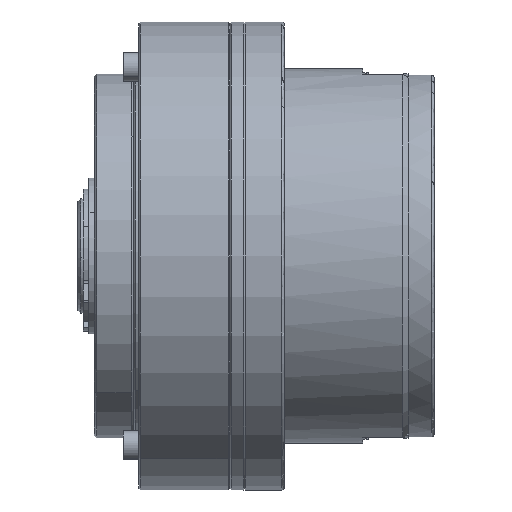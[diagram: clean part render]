
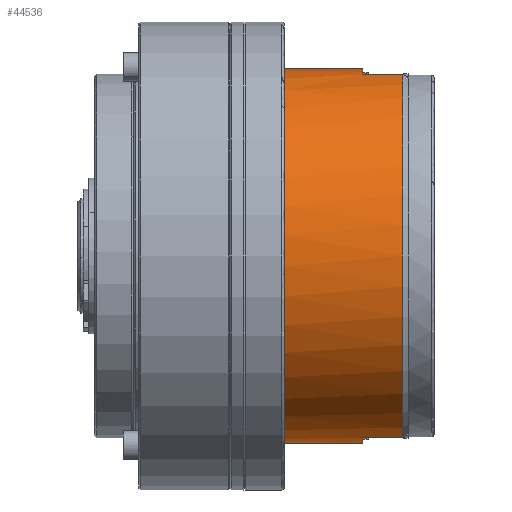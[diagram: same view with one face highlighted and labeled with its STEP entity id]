
A CAD part, left-side view. The second image highlights one B-rep face of the part: STEP entity #44536.
In plain terms, the highlighted cylindrical face has radius 36 mm (diameter 72 mm), a partial arc.
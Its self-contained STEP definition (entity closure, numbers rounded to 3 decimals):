
#59 = CARTESIAN_POINT ( 'NONE',  ( -8.743, 8.7, -34.922 ) ) ;
#1963 = VERTEX_POINT ( 'NONE', #94333 ) ;
#4630 = LINE ( 'NONE', #100639, #113653 ) ;
#5792 = CARTESIAN_POINT ( 'NONE',  ( 0., 8.7, 36. ) ) ;
#6038 = VERTEX_POINT ( 'NONE', #91585 ) ;
#6105 = DIRECTION ( 'NONE',  ( 0., -1., 0. ) ) ;
#6279 = CARTESIAN_POINT ( 'NONE',  ( -32.358, 23.8, 15.953 ) ) ;
#6727 = CARTESIAN_POINT ( 'NONE',  ( -34.849, 23.8, 9.334 ) ) ;
#7176 = CARTESIAN_POINT ( 'NONE',  ( -4.712, 23.8, 35.768 ) ) ;
#7661 = CARTESIAN_POINT ( 'NONE',  ( -18.041, 23.8, 31.242 ) ) ;
#8101 = CARTESIAN_POINT ( 'NONE',  ( -18.041, 23.8, -31.242 ) ) ;
#8685 = ORIENTED_EDGE ( 'NONE', *, *, #13627, .T. ) ;
#9508 = ORIENTED_EDGE ( 'NONE', *, *, #26420, .T. ) ;
#10544 = LINE ( 'NONE', #61223, #46900 ) ;
#10841 = ORIENTED_EDGE ( 'NONE', *, *, #115080, .T. ) ;
#11950 = VERTEX_POINT ( 'NONE', #114706 ) ;
#13584 = VECTOR ( 'NONE', #78011, 1000. ) ;
#13627 = EDGE_CURVE ( 'NONE', #6038, #124430, #34643, .T. ) ;
#17360 = CARTESIAN_POINT ( 'NONE',  ( 0., 8.7, 36. ) ) ;
#17782 = CARTESIAN_POINT ( 'NONE',  ( -23.79, 23.8, 27.122 ) ) ;
#18211 = CARTESIAN_POINT ( 'NONE',  ( -34.161, 23.8, -11.6 ) ) ;
#20313 = AXIS2_PLACEMENT_3D ( 'NONE', #125208, #135745, #75900 ) ;
#22894 = ORIENTED_EDGE ( 'NONE', *, *, #103892, .T. ) ;
#23092 = CARTESIAN_POINT ( 'NONE',  ( -5.29, 8.7, -35.675 ) ) ;
#26321 = LINE ( 'NONE', #132065, #51233 ) ;
#26420 = EDGE_CURVE ( 'NONE', #11950, #56500, #94439, .T. ) ;
#26580 = CARTESIAN_POINT ( 'NONE',  ( -1.766, 8.7, 36. ) ) ;
#27467 = CARTESIAN_POINT ( 'NONE',  ( -15.953, 23.8, -32.358 ) ) ;
#28834 = CARTESIAN_POINT ( 'NONE',  ( -31.242, 23.8, -18.041 ) ) ;
#31747 = EDGE_CURVE ( 'NONE', #118218, #111538, #134355, .T. ) ;
#32554 = ORIENTED_EDGE ( 'NONE', *, *, #31747, .F. ) ;
#34643 = CIRCLE ( 'NONE', #20313, 36. ) ;
#39028 = CARTESIAN_POINT ( 'NONE',  ( -32.358, 23.8, -15.953 ) ) ;
#39480 = CARTESIAN_POINT ( 'NONE',  ( -34.849, 23.8, -9.334 ) ) ;
#40073 = FACE_OUTER_BOUND ( 'NONE', #70928, .T. ) ;
#41680 = CYLINDRICAL_SURFACE ( 'NONE', #46803, 36. ) ;
#41954 = ORIENTED_EDGE ( 'NONE', *, *, #43039, .F. ) ;
#43039 = EDGE_CURVE ( 'NONE', #1963, #57889, #43536, .T. ) ;
#43536 = B_SPLINE_CURVE_WITH_KNOTS ( 'NONE', 5,
 ( #59, #96570, #23092, #115959, #97010, #74014 ),
 .UNSPECIFIED., .F., .F.,
 ( 6, 6 ),
 ( 0., 12.489 ),
 .UNSPECIFIED. ) ;
#44536 = ADVANCED_FACE ( 'NONE', ( #40073 ), #41680, .T. ) ;
#46803 = AXIS2_PLACEMENT_3D ( 'NONE', #130863, #109692, #120264 ) ;
#46900 = VECTOR ( 'NONE', #52438, 1000. ) ;
#48802 = CARTESIAN_POINT ( 'NONE',  ( -27.122, 23.8, 23.79 ) ) ;
#49281 = CARTESIAN_POINT ( 'NONE',  ( -3.532, 8.7, 35.892 ) ) ;
#49703 = CARTESIAN_POINT ( 'NONE',  ( -2.356, 23.8, -36. ) ) ;
#51233 = VECTOR ( 'NONE', #6105, 1000. ) ;
#52438 = DIRECTION ( 'NONE',  ( 0., -1., 0. ) ) ;
#53641 = CARTESIAN_POINT ( 'NONE',  ( 0., 8.7, -36. ) ) ;
#56500 = VERTEX_POINT ( 'NONE', #66052 ) ;
#56952 = CARTESIAN_POINT ( 'NONE',  ( -8.743, 8.7, 34.922 ) ) ;
#57889 = VERTEX_POINT ( 'NONE', #53641 ) ;
#58635 = DIRECTION ( 'NONE',  ( 0., -1., 0. ) ) ;
#59401 = CARTESIAN_POINT ( 'NONE',  ( -23.79, 23.8, -27.122 ) ) ;
#59868 = CARTESIAN_POINT ( 'NONE',  ( -35.768, 23.8, 4.712 ) ) ;
#60325 = CARTESIAN_POINT ( 'NONE',  ( -9.334, 23.8, -34.849 ) ) ;
#61223 = CARTESIAN_POINT ( 'NONE',  ( -8.743, 19., -34.922 ) ) ;
#62987 = ORIENTED_EDGE ( 'NONE', *, *, #110769, .F. ) ;
#66052 = CARTESIAN_POINT ( 'NONE',  ( 0., 23.8, -36. ) ) ;
#66945 = CARTESIAN_POINT ( 'NONE',  ( -8.743, 19., 34.922 ) ) ;
#70044 = CARTESIAN_POINT ( 'NONE',  ( -11.6, 23.8, -34.161 ) ) ;
#70512 = CARTESIAN_POINT ( 'NONE',  ( -11.6, 23.8, 34.161 ) ) ;
#70928 = EDGE_LOOP ( 'NONE', ( #62987, #9508, #10841, #41954, #77128, #8685, #22894, #32554 ) ) ;
#70948 = CARTESIAN_POINT ( 'NONE',  ( 0., 23.8, -36. ) ) ;
#74014 = CARTESIAN_POINT ( 'NONE',  ( 0., 8.7, -36. ) ) ;
#74479 = EDGE_CURVE ( 'NONE', #1963, #6038, #10544, .T. ) ;
#74821 = LINE ( 'NONE', #66945, #13584 ) ;
#75900 = DIRECTION ( 'NONE',  ( 1., 0., 0. ) ) ;
#77128 = ORIENTED_EDGE ( 'NONE', *, *, #74479, .T. ) ;
#78011 = DIRECTION ( 'NONE',  ( 0., 1., 0. ) ) ;
#80673 = CARTESIAN_POINT ( 'NONE',  ( -2.356, 23.8, 36. ) ) ;
#81123 = CARTESIAN_POINT ( 'NONE',  ( -15.953, 23.8, 32.358 ) ) ;
#81560 = CARTESIAN_POINT ( 'NONE',  ( -35.768, 23.8, -4.712 ) ) ;
#91265 = CARTESIAN_POINT ( 'NONE',  ( -5.29, 8.7, 35.675 ) ) ;
#91585 = CARTESIAN_POINT ( 'NONE',  ( -8.743, 1., -34.922 ) ) ;
#91687 = CARTESIAN_POINT ( 'NONE',  ( -31.242, 23.8, 18.041 ) ) ;
#94333 = CARTESIAN_POINT ( 'NONE',  ( -8.743, 8.7, -34.922 ) ) ;
#94439 = B_SPLINE_CURVE_WITH_KNOTS ( 'NONE', 3,
 ( #112017, #80673, #7176, #102742, #70512, #81123, #7661, #112458, #17782, #48802, #134487, #91687, #6279, #122101, #6727, #59868, #122553, #102312, #81560, #39480, #18211, #39028, #28834, #100933, #111550, #59401, #112892, #8101, #27467, #70044, #60325, #113385, #49703, #70948 ),
 .UNSPECIFIED., .F., .F.,
 ( 4, 2, 2, 2, 2, 2, 2, 2, 2, 2, 2, 2, 2, 2, 2, 2, 4 ),
 ( 0., 0.063, 0.125, 0.188, 0.25, 0.313, 0.375, 0.438, 0.5, 0.563, 0.625, 0.688, 0.75, 0.813, 0.875, 0.938, 1. ),
 .UNSPECIFIED. ) ;
#96570 = CARTESIAN_POINT ( 'NONE',  ( -7.03, 8.7, -35.351 ) ) ;
#97010 = CARTESIAN_POINT ( 'NONE',  ( -1.766, 8.7, -36. ) ) ;
#100639 = CARTESIAN_POINT ( 'NONE',  ( 0., 19., 36. ) ) ;
#100933 = CARTESIAN_POINT ( 'NONE',  ( -28.624, 23.8, -21.96 ) ) ;
#102312 = CARTESIAN_POINT ( 'NONE',  ( -36., 23.8, -2.356 ) ) ;
#102742 = CARTESIAN_POINT ( 'NONE',  ( -9.334, 23.8, 34.849 ) ) ;
#103892 = EDGE_CURVE ( 'NONE', #124430, #111538, #74821, .T. ) ;
#109692 = DIRECTION ( 'NONE',  ( 0., -1., 0. ) ) ;
#110769 = EDGE_CURVE ( 'NONE', #11950, #118218, #4630, .T. ) ;
#111538 = VERTEX_POINT ( 'NONE', #56952 ) ;
#111550 = CARTESIAN_POINT ( 'NONE',  ( -27.122, 23.8, -23.79 ) ) ;
#112017 = CARTESIAN_POINT ( 'NONE',  ( 0., 23.8, 36. ) ) ;
#112458 = CARTESIAN_POINT ( 'NONE',  ( -21.96, 23.8, 28.624 ) ) ;
#112892 = CARTESIAN_POINT ( 'NONE',  ( -21.96, 23.8, -28.624 ) ) ;
#113385 = CARTESIAN_POINT ( 'NONE',  ( -4.712, 23.8, -35.768 ) ) ;
#113653 = VECTOR ( 'NONE', #58635, 1000. ) ;
#114706 = CARTESIAN_POINT ( 'NONE',  ( 0., 23.8, 36. ) ) ;
#115080 = EDGE_CURVE ( 'NONE', #56500, #57889, #26321, .T. ) ;
#115959 = CARTESIAN_POINT ( 'NONE',  ( -3.532, 8.7, -35.892 ) ) ;
#118218 = VERTEX_POINT ( 'NONE', #5792 ) ;
#120264 = DIRECTION ( 'NONE',  ( 0., 0., -1. ) ) ;
#120474 = CARTESIAN_POINT ( 'NONE',  ( -8.743, 1., 34.922 ) ) ;
#122101 = CARTESIAN_POINT ( 'NONE',  ( -34.161, 23.8, 11.6 ) ) ;
#122553 = CARTESIAN_POINT ( 'NONE',  ( -36., 23.8, 2.356 ) ) ;
#124430 = VERTEX_POINT ( 'NONE', #120474 ) ;
#125208 = CARTESIAN_POINT ( 'NONE',  ( 0., 1., 0. ) ) ;
#130863 = CARTESIAN_POINT ( 'NONE',  ( 0., 19., 0. ) ) ;
#132065 = CARTESIAN_POINT ( 'NONE',  ( 0., 19., -36. ) ) ;
#132717 = CARTESIAN_POINT ( 'NONE',  ( -8.743, 8.7, 34.922 ) ) ;
#134063 = CARTESIAN_POINT ( 'NONE',  ( -7.03, 8.7, 35.351 ) ) ;
#134355 = B_SPLINE_CURVE_WITH_KNOTS ( 'NONE', 5,
 ( #17360, #26580, #49281, #91265, #134063, #132717 ),
 .UNSPECIFIED., .F., .F.,
 ( 6, 6 ),
 ( 0., 12.489 ),
 .UNSPECIFIED. ) ;
#134487 = CARTESIAN_POINT ( 'NONE',  ( -28.624, 23.8, 21.96 ) ) ;
#135745 = DIRECTION ( 'NONE',  ( 0., 1., 0. ) ) ;
